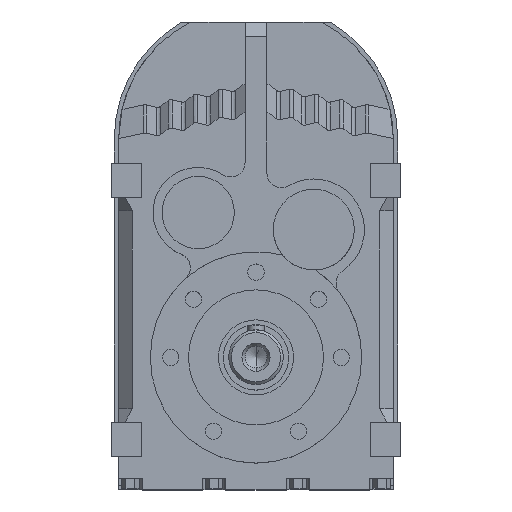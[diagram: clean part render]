
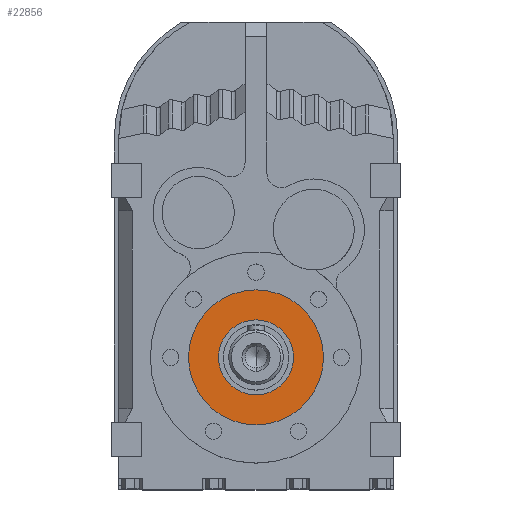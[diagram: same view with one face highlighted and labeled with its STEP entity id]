
A CAD part, top view. The second image highlights one B-rep face of the part: STEP entity #22856.
In plain terms, the highlighted planar face has unit normal (0, 0, 1).
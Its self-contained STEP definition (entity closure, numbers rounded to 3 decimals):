
#17887 = CYLINDRICAL_SURFACE('',#17888,49.5);
#17888 = AXIS2_PLACEMENT_3D('',#17889,#17890,#17891);
#17889 = CARTESIAN_POINT('',(0.,-159.5,110.123));
#17890 = DIRECTION('',(0.,0.,1.));
#17891 = DIRECTION('',(1.,0.,0.));
#17913 = CYLINDRICAL_SURFACE('',#17914,49.5);
#17914 = AXIS2_PLACEMENT_3D('',#17915,#17916,#17917);
#17915 = CARTESIAN_POINT('',(0.,-159.5,110.123));
#17916 = DIRECTION('',(0.,0.,1.));
#17917 = DIRECTION('',(1.,0.,0.));
#22117 = EDGE_CURVE('',#22118,#22120,#22122,.T.);
#22118 = VERTEX_POINT('',#22119);
#22119 = CARTESIAN_POINT('',(-49.5,-159.5,156.));
#22120 = VERTEX_POINT('',#22121);
#22121 = CARTESIAN_POINT('',(49.5,-159.5,156.));
#22122 = SURFACE_CURVE('',#22123,(#22128,#22134),.PCURVE_S1.);
#22123 = CIRCLE('',#22124,49.5);
#22124 = AXIS2_PLACEMENT_3D('',#22125,#22126,#22127);
#22125 = CARTESIAN_POINT('',(0.,-159.5,156.));
#22126 = DIRECTION('',(0.,0.,1.));
#22127 = DIRECTION('',(1.,0.,0.));
#22128 = PCURVE('',#17913,#22129);
#22129 = DEFINITIONAL_REPRESENTATION('',(#22130),#22133);
#22130 = B_SPLINE_CURVE_WITH_KNOTS('',1,(#22131,#22132),.UNSPECIFIED.,
  .F.,.F.,(2,2),(3.142,6.283),.PIECEWISE_BEZIER_KNOTS.);
#22131 = CARTESIAN_POINT('',(3.142,45.877));
#22132 = CARTESIAN_POINT('',(6.283,45.877));
#22133 = ( GEOMETRIC_REPRESENTATION_CONTEXT(2) 
PARAMETRIC_REPRESENTATION_CONTEXT() REPRESENTATION_CONTEXT('2D SPACE',''
  ) );
#22134 = PCURVE('',#22135,#22140);
#22135 = PLANE('',#22136);
#22136 = AXIS2_PLACEMENT_3D('',#22137,#22138,#22139);
#22137 = CARTESIAN_POINT('',(0.,-110.,156.));
#22138 = DIRECTION('',(0.,0.,1.));
#22139 = DIRECTION('',(1.,0.,0.));
#22140 = DEFINITIONAL_REPRESENTATION('',(#22141),#22145);
#22141 = CIRCLE('',#22142,49.5);
#22142 = AXIS2_PLACEMENT_2D('',#22143,#22144);
#22143 = CARTESIAN_POINT('',(0.,-49.5));
#22144 = DIRECTION('',(1.,0.));
#22145 = ( GEOMETRIC_REPRESENTATION_CONTEXT(2) 
PARAMETRIC_REPRESENTATION_CONTEXT() REPRESENTATION_CONTEXT('2D SPACE',''
  ) );
#22192 = EDGE_CURVE('',#22120,#22118,#22193,.T.);
#22193 = SURFACE_CURVE('',#22194,(#22199,#22205),.PCURVE_S1.);
#22194 = CIRCLE('',#22195,49.5);
#22195 = AXIS2_PLACEMENT_3D('',#22196,#22197,#22198);
#22196 = CARTESIAN_POINT('',(0.,-159.5,156.));
#22197 = DIRECTION('',(0.,0.,1.));
#22198 = DIRECTION('',(1.,0.,0.));
#22199 = PCURVE('',#17887,#22200);
#22200 = DEFINITIONAL_REPRESENTATION('',(#22201),#22204);
#22201 = B_SPLINE_CURVE_WITH_KNOTS('',1,(#22202,#22203),.UNSPECIFIED.,
  .F.,.F.,(2,2),(0.,3.142),.PIECEWISE_BEZIER_KNOTS.);
#22202 = CARTESIAN_POINT('',(0.,45.877));
#22203 = CARTESIAN_POINT('',(3.142,45.877));
#22204 = ( GEOMETRIC_REPRESENTATION_CONTEXT(2) 
PARAMETRIC_REPRESENTATION_CONTEXT() REPRESENTATION_CONTEXT('2D SPACE',''
  ) );
#22205 = PCURVE('',#22135,#22206);
#22206 = DEFINITIONAL_REPRESENTATION('',(#22207),#22211);
#22207 = CIRCLE('',#22208,49.5);
#22208 = AXIS2_PLACEMENT_2D('',#22209,#22210);
#22209 = CARTESIAN_POINT('',(0.,-49.5));
#22210 = DIRECTION('',(1.,0.));
#22211 = ( GEOMETRIC_REPRESENTATION_CONTEXT(2) 
PARAMETRIC_REPRESENTATION_CONTEXT() REPRESENTATION_CONTEXT('2D SPACE',''
  ) );
#22856 = ADVANCED_FACE('',(#22857,#22861),#22135,.T.);
#22857 = FACE_BOUND('',#22858,.T.);
#22858 = EDGE_LOOP('',(#22859,#22860));
#22859 = ORIENTED_EDGE('',*,*,#22192,.T.);
#22860 = ORIENTED_EDGE('',*,*,#22117,.T.);
#22861 = FACE_BOUND('',#22862,.T.);
#22862 = EDGE_LOOP('',(#22863,#22893));
#22863 = ORIENTED_EDGE('',*,*,#22864,.F.);
#22864 = EDGE_CURVE('',#22865,#22867,#22869,.T.);
#22865 = VERTEX_POINT('',#22866);
#22866 = CARTESIAN_POINT('',(27.5,-159.5,156.));
#22867 = VERTEX_POINT('',#22868);
#22868 = CARTESIAN_POINT('',(-27.5,-159.5,156.));
#22869 = SURFACE_CURVE('',#22870,(#22875,#22882),.PCURVE_S1.);
#22870 = CIRCLE('',#22871,27.5);
#22871 = AXIS2_PLACEMENT_3D('',#22872,#22873,#22874);
#22872 = CARTESIAN_POINT('',(0.,-159.5,156.));
#22873 = DIRECTION('',(0.,0.,1.));
#22874 = DIRECTION('',(1.,0.,0.));
#22875 = PCURVE('',#22135,#22876);
#22876 = DEFINITIONAL_REPRESENTATION('',(#22877),#22881);
#22877 = CIRCLE('',#22878,27.5);
#22878 = AXIS2_PLACEMENT_2D('',#22879,#22880);
#22879 = CARTESIAN_POINT('',(0.,-49.5));
#22880 = DIRECTION('',(1.,0.));
#22881 = ( GEOMETRIC_REPRESENTATION_CONTEXT(2) 
PARAMETRIC_REPRESENTATION_CONTEXT() REPRESENTATION_CONTEXT('2D SPACE',''
  ) );
#22882 = PCURVE('',#22883,#22888);
#22883 = CYLINDRICAL_SURFACE('',#22884,27.5);
#22884 = AXIS2_PLACEMENT_3D('',#22885,#22886,#22887);
#22885 = CARTESIAN_POINT('',(0.,-159.5,110.123));
#22886 = DIRECTION('',(0.,0.,1.));
#22887 = DIRECTION('',(1.,0.,0.));
#22888 = DEFINITIONAL_REPRESENTATION('',(#22889),#22892);
#22889 = B_SPLINE_CURVE_WITH_KNOTS('',1,(#22890,#22891),.UNSPECIFIED.,
  .F.,.F.,(2,2),(0.,3.142),.PIECEWISE_BEZIER_KNOTS.);
#22890 = CARTESIAN_POINT('',(0.,45.877));
#22891 = CARTESIAN_POINT('',(3.142,45.877));
#22892 = ( GEOMETRIC_REPRESENTATION_CONTEXT(2) 
PARAMETRIC_REPRESENTATION_CONTEXT() REPRESENTATION_CONTEXT('2D SPACE',''
  ) );
#22893 = ORIENTED_EDGE('',*,*,#22894,.F.);
#22894 = EDGE_CURVE('',#22867,#22865,#22895,.T.);
#22895 = SURFACE_CURVE('',#22896,(#22901,#22908),.PCURVE_S1.);
#22896 = CIRCLE('',#22897,27.5);
#22897 = AXIS2_PLACEMENT_3D('',#22898,#22899,#22900);
#22898 = CARTESIAN_POINT('',(0.,-159.5,156.));
#22899 = DIRECTION('',(0.,0.,1.));
#22900 = DIRECTION('',(1.,0.,0.));
#22901 = PCURVE('',#22135,#22902);
#22902 = DEFINITIONAL_REPRESENTATION('',(#22903),#22907);
#22903 = CIRCLE('',#22904,27.5);
#22904 = AXIS2_PLACEMENT_2D('',#22905,#22906);
#22905 = CARTESIAN_POINT('',(0.,-49.5));
#22906 = DIRECTION('',(1.,0.));
#22907 = ( GEOMETRIC_REPRESENTATION_CONTEXT(2) 
PARAMETRIC_REPRESENTATION_CONTEXT() REPRESENTATION_CONTEXT('2D SPACE',''
  ) );
#22908 = PCURVE('',#22909,#22914);
#22909 = CYLINDRICAL_SURFACE('',#22910,27.5);
#22910 = AXIS2_PLACEMENT_3D('',#22911,#22912,#22913);
#22911 = CARTESIAN_POINT('',(0.,-159.5,110.123));
#22912 = DIRECTION('',(0.,0.,1.));
#22913 = DIRECTION('',(1.,0.,0.));
#22914 = DEFINITIONAL_REPRESENTATION('',(#22915),#22918);
#22915 = B_SPLINE_CURVE_WITH_KNOTS('',1,(#22916,#22917),.UNSPECIFIED.,
  .F.,.F.,(2,2),(3.142,6.283),.PIECEWISE_BEZIER_KNOTS.);
#22916 = CARTESIAN_POINT('',(3.142,45.877));
#22917 = CARTESIAN_POINT('',(6.283,45.877));
#22918 = ( GEOMETRIC_REPRESENTATION_CONTEXT(2) 
PARAMETRIC_REPRESENTATION_CONTEXT() REPRESENTATION_CONTEXT('2D SPACE',''
  ) );
